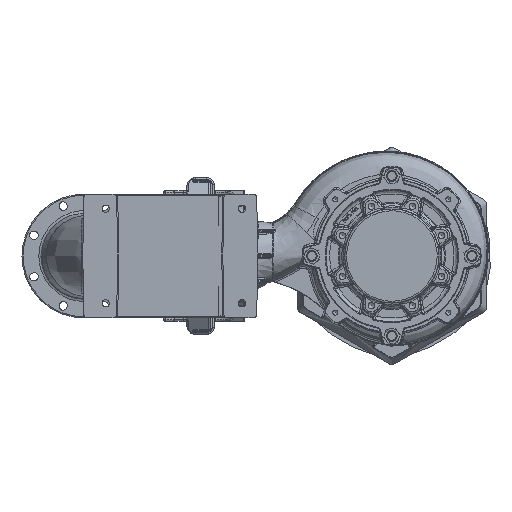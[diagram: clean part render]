
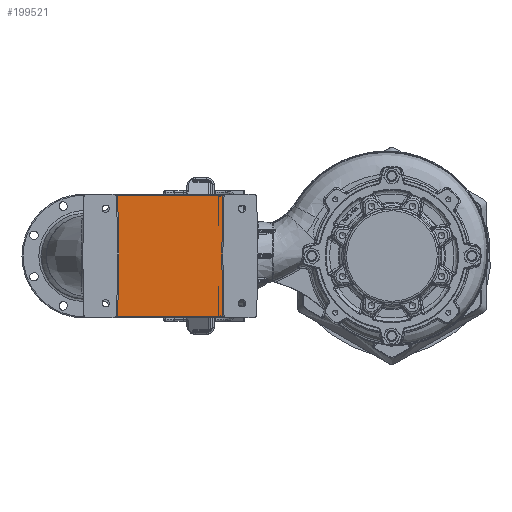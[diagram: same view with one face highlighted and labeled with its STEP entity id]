
A CAD part, front view. The second image highlights one B-rep face of the part: STEP entity #199521.
In plain terms, the highlighted planar face has unit normal (0, -1, 0).
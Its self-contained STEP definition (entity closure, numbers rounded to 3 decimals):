
#2607 = EDGE_CURVE ( 'NONE', #63204, #107744, #55634, .T. ) ;
#3671 = VERTEX_POINT ( 'NONE', #158299 ) ;
#4991 = DIRECTION ( 'NONE',  ( -0.017, 0., 1. ) ) ;
#5623 = DIRECTION ( 'NONE',  ( 0., 0., -1. ) ) ;
#11047 = VECTOR ( 'NONE', #42497, 1000. ) ;
#13688 = CARTESIAN_POINT ( 'NONE',  ( 182.28, -506.797, 160.227 ) ) ;
#15288 = EDGE_CURVE ( 'NONE', #223922, #41644, #50964, .T. ) ;
#16928 = CIRCLE ( 'NONE', #152490, 13. ) ;
#22198 = DIRECTION ( 'NONE',  ( 0., 0., -1. ) ) ;
#23276 = EDGE_CURVE ( 'NONE', #41644, #63204, #180450, .T. ) ;
#27775 = DIRECTION ( 'NONE',  ( 0., 1., 0. ) ) ;
#28695 = CIRCLE ( 'NONE', #61372, 13. ) ;
#38079 = DIRECTION ( 'NONE',  ( -1., 0., 0. ) ) ;
#39121 = CARTESIAN_POINT ( 'NONE',  ( 182.28, -506.797, -160.227 ) ) ;
#41610 = PLANE ( 'NONE',  #194839 ) ;
#41644 = VERTEX_POINT ( 'NONE', #172676 ) ;
#42497 = DIRECTION ( 'NONE',  ( 1., 0., 0. ) ) ;
#42569 = CARTESIAN_POINT ( 'NONE',  ( -199.549, -506.797, 0. ) ) ;
#44708 = CARTESIAN_POINT ( 'NONE',  ( -119.376, -506.797, 160. ) ) ;
#45002 = ORIENTED_EDGE ( 'NONE', *, *, #15288, .T. ) ;
#50964 = LINE ( 'NONE', #231122, #277717 ) ;
#51028 = CARTESIAN_POINT ( 'NONE',  ( 179.484, -506.797, -0.052 ) ) ;
#55634 = CIRCLE ( 'NONE', #97319, 13. ) ;
#56349 = CARTESIAN_POINT ( 'NONE',  ( -108.421, -506.797, 167. ) ) ;
#57234 = EDGE_CURVE ( 'NONE', #246088, #223922, #16928, .T. ) ;
#60523 = VECTOR ( 'NONE', #186635, 1000. ) ;
#60771 = DIRECTION ( 'NONE',  ( 0., 1., 0. ) ) ;
#61372 = AXIS2_PLACEMENT_3D ( 'NONE', #155651, #222900, #22198 ) ;
#63204 = VERTEX_POINT ( 'NONE', #109702 ) ;
#69303 = LINE ( 'NONE', #51028, #120881 ) ;
#69599 = AXIS2_PLACEMENT_3D ( 'NONE', #159335, #27775, #5623 ) ;
#70290 = LINE ( 'NONE', #169699, #135615 ) ;
#76202 = ORIENTED_EDGE ( 'NONE', *, *, #210310, .T. ) ;
#79157 = CARTESIAN_POINT ( 'NONE',  ( 195.278, -506.797, -167. ) ) ;
#79542 = VERTEX_POINT ( 'NONE', #274482 ) ;
#80725 = ORIENTED_EDGE ( 'NONE', *, *, #159515, .T. ) ;
#87665 = CARTESIAN_POINT ( 'NONE',  ( -106.378, -506.797, -160.227 ) ) ;
#95692 = CARTESIAN_POINT ( 'NONE',  ( -108.421, -506.797, -167. ) ) ;
#97319 = AXIS2_PLACEMENT_3D ( 'NONE', #216319, #60771, #127069 ) ;
#102336 = EDGE_CURVE ( 'NONE', #79542, #170352, #283997, .T. ) ;
#107744 = VERTEX_POINT ( 'NONE', #95692 ) ;
#108512 = ORIENTED_EDGE ( 'NONE', *, *, #102336, .T. ) ;
#109702 = CARTESIAN_POINT ( 'NONE',  ( -106.378, -506.797, -160.227 ) ) ;
#120764 = VERTEX_POINT ( 'NONE', #231108 ) ;
#120881 = VECTOR ( 'NONE', #4991, 1000. ) ;
#127069 = DIRECTION ( 'NONE',  ( 0., 0., -1. ) ) ;
#132140 = DIRECTION ( 'NONE',  ( 0., 0., -1. ) ) ;
#135615 = VECTOR ( 'NONE', #38079, 1000. ) ;
#152490 = AXIS2_PLACEMENT_3D ( 'NONE', #44708, #263616, #132140 ) ;
#155651 = CARTESIAN_POINT ( 'NONE',  ( 195.278, -506.797, -160. ) ) ;
#158299 = CARTESIAN_POINT ( 'NONE',  ( 184.324, -506.797, -167. ) ) ;
#159335 = CARTESIAN_POINT ( 'NONE',  ( 195.278, -506.797, 160. ) ) ;
#159515 = EDGE_CURVE ( 'NONE', #170352, #120764, #263203, .T. ) ;
#169699 = CARTESIAN_POINT ( 'NONE',  ( -199.549, -506.797, 167. ) ) ;
#170352 = VERTEX_POINT ( 'NONE', #209094 ) ;
#172676 = CARTESIAN_POINT ( 'NONE',  ( -103.581, -506.797, 0. ) ) ;
#177569 = CARTESIAN_POINT ( 'NONE',  ( -106.378, -506.797, 160.227 ) ) ;
#180450 = LINE ( 'NONE', #87665, #221471 ) ;
#181024 = FACE_OUTER_BOUND ( 'NONE', #232604, .T. ) ;
#184109 = EDGE_CURVE ( 'NONE', #120764, #246088, #70290, .T. ) ;
#186635 = DIRECTION ( 'NONE',  ( 0.017, 0., 1. ) ) ;
#189635 = LINE ( 'NONE', #79157, #11047 ) ;
#190141 = ORIENTED_EDGE ( 'NONE', *, *, #207561, .T. ) ;
#194839 = AXIS2_PLACEMENT_3D ( 'NONE', #42569, #240361, #262418 ) ;
#199521 = ADVANCED_FACE ( 'NONE', ( #181024 ), #41610, .T. ) ;
#200311 = ORIENTED_EDGE ( 'NONE', *, *, #23276, .T. ) ;
#203868 = ORIENTED_EDGE ( 'NONE', *, *, #2607, .T. ) ;
#207561 = EDGE_CURVE ( 'NONE', #3671, #241187, #28695, .T. ) ;
#209094 = CARTESIAN_POINT ( 'NONE',  ( 182.28, -506.797, 160.227 ) ) ;
#210310 = EDGE_CURVE ( 'NONE', #107744, #3671, #189635, .T. ) ;
#216319 = CARTESIAN_POINT ( 'NONE',  ( -119.376, -506.797, -160. ) ) ;
#221471 = VECTOR ( 'NONE', #243199, 1000. ) ;
#222900 = DIRECTION ( 'NONE',  ( 0., 1., 0. ) ) ;
#223922 = VERTEX_POINT ( 'NONE', #177569 ) ;
#229885 = ORIENTED_EDGE ( 'NONE', *, *, #242097, .T. ) ;
#231108 = CARTESIAN_POINT ( 'NONE',  ( 184.324, -506.797, 167. ) ) ;
#231122 = CARTESIAN_POINT ( 'NONE',  ( -103.582, -506.797, 0.052 ) ) ;
#232604 = EDGE_LOOP ( 'NONE', ( #190141, #229885, #108512, #80725, #257236, #251596, #45002, #200311, #203868, #76202 ) ) ;
#240361 = DIRECTION ( 'NONE',  ( 0., -1., 0. ) ) ;
#241187 = VERTEX_POINT ( 'NONE', #39121 ) ;
#242097 = EDGE_CURVE ( 'NONE', #241187, #79542, #69303, .T. ) ;
#243199 = DIRECTION ( 'NONE',  ( -0.017, 0., -1. ) ) ;
#246088 = VERTEX_POINT ( 'NONE', #56349 ) ;
#251596 = ORIENTED_EDGE ( 'NONE', *, *, #57234, .T. ) ;
#253114 = DIRECTION ( 'NONE',  ( 0.017, 0., -1. ) ) ;
#257236 = ORIENTED_EDGE ( 'NONE', *, *, #184109, .T. ) ;
#262418 = DIRECTION ( 'NONE',  ( 0., 0., -1. ) ) ;
#263203 = CIRCLE ( 'NONE', #69599, 13. ) ;
#263616 = DIRECTION ( 'NONE',  ( 0., 1., 0. ) ) ;
#274482 = CARTESIAN_POINT ( 'NONE',  ( 179.483, -506.797, 0. ) ) ;
#277717 = VECTOR ( 'NONE', #253114, 1000. ) ;
#283997 = LINE ( 'NONE', #13688, #60523 ) ;
